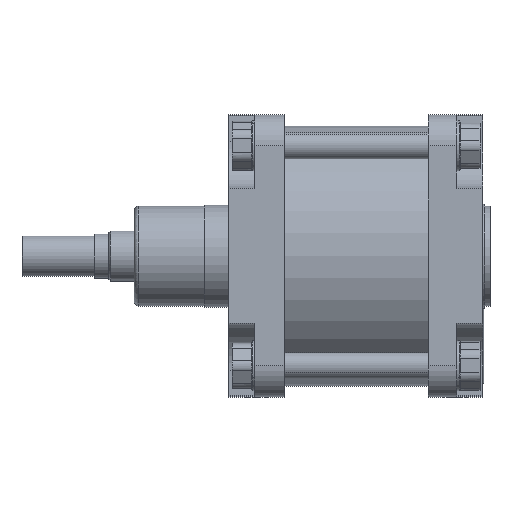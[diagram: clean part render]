
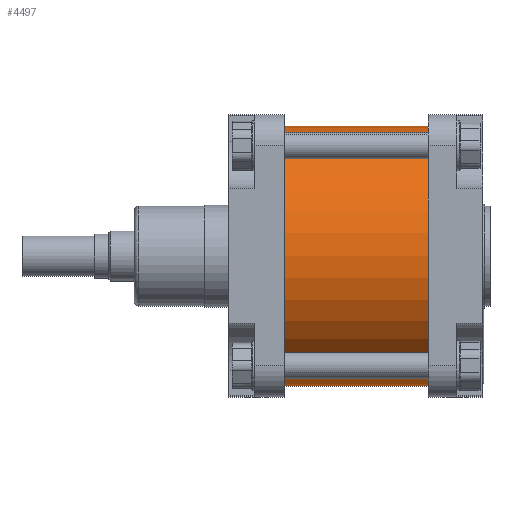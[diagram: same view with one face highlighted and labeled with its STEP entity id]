
A CAD part, top view. The second image highlights one B-rep face of the part: STEP entity #4497.
In plain terms, the highlighted cylindrical face has radius 130 mm (diameter 260 mm), a partial arc.
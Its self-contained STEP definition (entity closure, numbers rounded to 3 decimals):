
#2427=CARTESIAN_POINT('Vertex',(-50.,-130.,0.)) ;
#2429=CARTESIAN_POINT('Vertex',(-50.,130.,0.)) ;
#2432=CARTESIAN_POINT('Axis2P3D Location',(-50.,0.,0.)) ;
#4467=CARTESIAN_POINT('Axis2P3D Location',(22.,0.,0.)) ;
#4472=CARTESIAN_POINT('Line Origine',(22.,130.,0.)) ;
#4476=CARTESIAN_POINT('Vertex',(94.,130.,0.)) ;
#4479=CARTESIAN_POINT('Line Origine',(22.,-130.,0.)) ;
#4483=CARTESIAN_POINT('Vertex',(94.,-130.,0.)) ;
#4486=CARTESIAN_POINT('Axis2P3D Location',(94.,0.,0.)) ;
#2433=DIRECTION('Axis2P3D Direction',(-1.,0.,0.)) ;
#4468=DIRECTION('Axis2P3D Direction',(1.,-0.,0.)) ;
#4469=DIRECTION('Axis2P3D XDirection',(0.,1.,0.)) ;
#4473=DIRECTION('Vector Direction',(1.,0.,0.)) ;
#4480=DIRECTION('Vector Direction',(1.,0.,0.)) ;
#4487=DIRECTION('Axis2P3D Direction',(1.,-0.,0.)) ;
#2434=AXIS2_PLACEMENT_3D('Circle Axis2P3D',#2432,#2433,$) ;
#4470=AXIS2_PLACEMENT_3D('Cylinder Axis2P3D',#4467,#4468,#4469) ;
#4488=AXIS2_PLACEMENT_3D('Circle Axis2P3D',#4486,#4487,$) ;
#4492=ORIENTED_EDGE('',*,*,#4478,.F.) ;
#4493=ORIENTED_EDGE('',*,*,#2436,.T.) ;
#4494=ORIENTED_EDGE('',*,*,#4485,.T.) ;
#4495=ORIENTED_EDGE('',*,*,#4490,.F.) ;
#4474=VECTOR('Line Direction',#4473,1.) ;
#4481=VECTOR('Line Direction',#4480,1.) ;
#4497=ADVANCED_FACE('PartBody',(#4496),#4471,.T.) ;
#2435=CIRCLE('generated circle',#2434,130.) ;
#4489=CIRCLE('generated circle',#4488,130.) ;
#4471=CYLINDRICAL_SURFACE('generated cylinder',#4470,130.) ;
#2436=EDGE_CURVE('',#2430,#2428,#2435,.F.) ;
#4478=EDGE_CURVE('',#2430,#4477,#4475,.T.) ;
#4485=EDGE_CURVE('',#2428,#4484,#4482,.T.) ;
#4490=EDGE_CURVE('',#4477,#4484,#4489,.T.) ;
#4491=EDGE_LOOP('',(#4492,#4493,#4494,#4495)) ;
#4496=FACE_OUTER_BOUND('',#4491,.T.) ;
#4475=LINE('Line',#4472,#4474) ;
#4482=LINE('Line',#4479,#4481) ;
#2428=VERTEX_POINT('',#2427) ;
#2430=VERTEX_POINT('',#2429) ;
#4477=VERTEX_POINT('',#4476) ;
#4484=VERTEX_POINT('',#4483) ;
